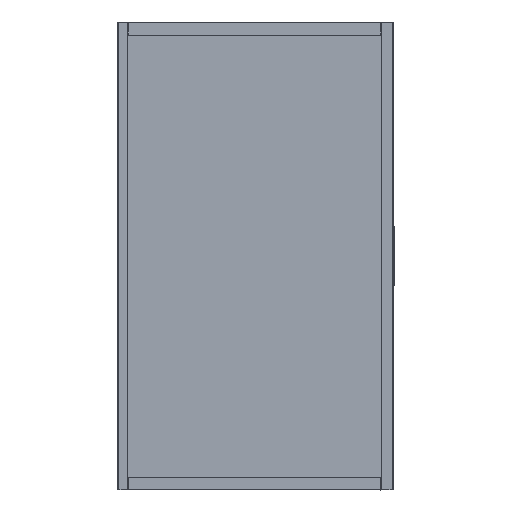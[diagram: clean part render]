
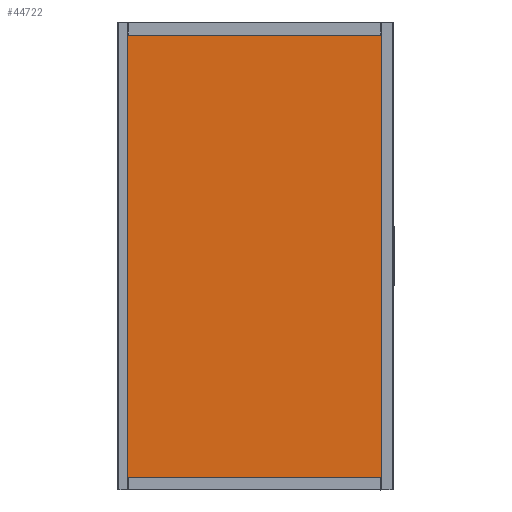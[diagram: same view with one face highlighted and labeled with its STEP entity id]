
A CAD part, front view. The second image highlights one B-rep face of the part: STEP entity #44722.
In plain terms, the highlighted planar face has unit normal (0, -1, 0).
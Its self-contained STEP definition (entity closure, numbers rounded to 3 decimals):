
#2455=LINE($,#76829,#6583);
#2662=LINE($,#77497,#6790);
#2694=LINE($,#77613,#6822);
#2733=LINE($,#77712,#6861);
#2735=LINE($,#77716,#6863);
#2736=LINE($,#77718,#6864);
#2778=LINE($,#77802,#6906);
#3082=LINE($,#78835,#7210);
#3110=LINE($,#78902,#7238);
#3157=LINE($,#79036,#7285);
#3160=LINE($,#79042,#7288);
#3164=LINE($,#79049,#7292);
#3176=LINE($,#79068,#7304);
#3177=LINE($,#79071,#7305);
#3180=LINE($,#79076,#7308);
#3181=LINE($,#79078,#7309);
#3182=LINE($,#79079,#7310);
#3183=LINE($,#79080,#7311);
#3184=LINE($,#79081,#7312);
#3185=LINE($,#79082,#7313);
#3186=LINE($,#79083,#7314);
#6583=VECTOR($,#54564,1908.);
#6790=VECTOR($,#55041,1084.);
#6822=VECTOR($,#55111,1084.);
#6861=VECTOR($,#55200,1084.);
#6863=VECTOR($,#55206,0.446);
#6864=VECTOR($,#55207,7.);
#6906=VECTOR($,#55279,1907.);
#7210=VECTOR($,#56183,1084.);
#7238=VECTOR($,#56237,1084.);
#7285=VECTOR($,#56346,1084.);
#7288=VECTOR($,#56351,7.85);
#7292=VECTOR($,#56357,8.15);
#7304=VECTOR($,#56373,8.15);
#7305=VECTOR($,#56376,1.);
#7308=VECTOR($,#56381,7.85);
#7309=VECTOR($,#56384,0.446);
#7310=VECTOR($,#56385,0.446);
#7311=VECTOR($,#56386,0.446);
#7312=VECTOR($,#56387,7.);
#7313=VECTOR($,#56388,7.);
#7314=VECTOR($,#56389,7.);
#9779=PLANE($,#47949);
#11214=FACE_BOUND($,#14937,.T.);
#11215=FACE_BOUND($,#14938,.T.);
#11216=FACE_BOUND($,#14939,.T.);
#14937=EDGE_LOOP($,(#34799,#34800,#34801,#34802));
#14938=EDGE_LOOP($,(#34803,#34804,#34805,#34806));
#14939=EDGE_LOOP($,(#34807,#34808,#34809,#34810,#34811,#34812,#34813,#34814,
#34815,#34816,#34817,#34818,#34819));
#19785=VERTEX_POINT($,#76827);
#19786=VERTEX_POINT($,#76828);
#19995=VERTEX_POINT($,#77495);
#19996=VERTEX_POINT($,#77496);
#20030=VERTEX_POINT($,#77611);
#20031=VERTEX_POINT($,#77612);
#20065=VERTEX_POINT($,#77709);
#20066=VERTEX_POINT($,#77711);
#20067=VERTEX_POINT($,#77717);
#20093=VERTEX_POINT($,#77800);
#20094=VERTEX_POINT($,#77801);
#20384=VERTEX_POINT($,#78833);
#20385=VERTEX_POINT($,#78834);
#20410=VERTEX_POINT($,#78900);
#20411=VERTEX_POINT($,#78901);
#20454=VERTEX_POINT($,#79033);
#20455=VERTEX_POINT($,#79035);
#20456=VERTEX_POINT($,#79039);
#20459=VERTEX_POINT($,#79046);
#20465=VERTEX_POINT($,#79070);
#20466=VERTEX_POINT($,#79074);
#24684=EDGE_CURVE($,#19785,#19786,#2455,.T.);
#24963=EDGE_CURVE($,#19995,#19996,#2662,.T.);
#25006=EDGE_CURVE($,#20030,#20031,#2694,.T.);
#25058=EDGE_CURVE($,#20065,#20066,#2733,.T.);
#25061=EDGE_CURVE($,#20031,#19995,#2735,.T.);
#25062=EDGE_CURVE($,#20066,#20067,#2736,.T.);
#25106=EDGE_CURVE($,#20093,#20094,#2778,.T.);
#25568=EDGE_CURVE($,#20384,#20385,#3082,.T.);
#25600=EDGE_CURVE($,#20410,#20411,#3110,.T.);
#25667=EDGE_CURVE($,#20454,#20455,#3157,.T.);
#25670=EDGE_CURVE($,#20094,#20456,#3160,.T.);
#25674=EDGE_CURVE($,#20459,#19785,#3164,.T.);
#25686=EDGE_CURVE($,#19786,#20067,#3176,.T.);
#25687=EDGE_CURVE($,#20465,#20093,#3177,.T.);
#25690=EDGE_CURVE($,#20466,#20465,#3180,.T.);
#25691=EDGE_CURVE($,#19996,#20030,#3181,.T.);
#25692=EDGE_CURVE($,#20385,#20410,#3182,.T.);
#25693=EDGE_CURVE($,#20411,#20384,#3183,.T.);
#25694=EDGE_CURVE($,#20459,#20454,#3184,.T.);
#25695=EDGE_CURVE($,#20466,#20065,#3185,.T.);
#25696=EDGE_CURVE($,#20455,#20456,#3186,.T.);
#34799=ORIENTED_EDGE($,*,*,#24963,.T.);
#34800=ORIENTED_EDGE($,*,*,#25691,.T.);
#34801=ORIENTED_EDGE($,*,*,#25006,.T.);
#34802=ORIENTED_EDGE($,*,*,#25061,.T.);
#34803=ORIENTED_EDGE($,*,*,#25568,.T.);
#34804=ORIENTED_EDGE($,*,*,#25692,.T.);
#34805=ORIENTED_EDGE($,*,*,#25600,.T.);
#34806=ORIENTED_EDGE($,*,*,#25693,.T.);
#34807=ORIENTED_EDGE($,*,*,#25694,.F.);
#34808=ORIENTED_EDGE($,*,*,#25674,.T.);
#34809=ORIENTED_EDGE($,*,*,#24684,.T.);
#34810=ORIENTED_EDGE($,*,*,#25686,.T.);
#34811=ORIENTED_EDGE($,*,*,#25062,.F.);
#34812=ORIENTED_EDGE($,*,*,#25058,.F.);
#34813=ORIENTED_EDGE($,*,*,#25695,.F.);
#34814=ORIENTED_EDGE($,*,*,#25690,.T.);
#34815=ORIENTED_EDGE($,*,*,#25687,.T.);
#34816=ORIENTED_EDGE($,*,*,#25106,.T.);
#34817=ORIENTED_EDGE($,*,*,#25670,.T.);
#34818=ORIENTED_EDGE($,*,*,#25696,.F.);
#34819=ORIENTED_EDGE($,*,*,#25667,.F.);
#44722=ADVANCED_FACE($,(#11214,#11215,#11216),#9779,.T.);
#47949=AXIS2_PLACEMENT_3D($,#79077,#56382,#56383);
#54564=DIRECTION($,(0.,0.,-1.));
#55041=DIRECTION($,(1.,0.,0.));
#55111=DIRECTION($,(-1.,0.,0.));
#55200=DIRECTION($,(-1.,0.,0.));
#55206=DIRECTION($,(0.,0.,1.));
#55207=DIRECTION($,(0.,0.,-1.));
#55279=DIRECTION($,(0.,0.,1.));
#56183=DIRECTION($,(-1.,0.,0.));
#56237=DIRECTION($,(1.,0.,0.));
#56346=DIRECTION($,(1.,0.,0.));
#56351=DIRECTION($,(-1.,0.,0.));
#56357=DIRECTION($,(-1.,0.,0.));
#56373=DIRECTION($,(1.,0.,0.));
#56376=DIRECTION($,(0.,0.,1.));
#56381=DIRECTION($,(1.,0.,0.));
#56382=DIRECTION('center_axis',(0.,-1.,0.));
#56383=DIRECTION('ref_axis',(1.,0.,0.));
#56384=DIRECTION($,(0.,0.,-1.));
#56385=DIRECTION($,(0.,0.,1.));
#56386=DIRECTION($,(0.,0.,-1.));
#56387=DIRECTION($,(0.,0.,-1.));
#56388=DIRECTION($,(0.,0.,1.));
#56389=DIRECTION($,(0.,0.,1.));
#76827=CARTESIAN_POINT('',(-302.375,-898.159,2908.14));
#76828=CARTESIAN_POINT('',(-302.375,-898.159,1000.14));
#76829=CARTESIAN_POINT($,(-302.375,-898.159,2908.14));
#77495=CARTESIAN_POINT('',(-294.225,-898.159,1008.713));
#77496=CARTESIAN_POINT('',(789.775,-898.159,1008.713));
#77497=CARTESIAN_POINT($,(-294.225,-898.159,1008.713));
#77611=CARTESIAN_POINT('',(789.775,-898.159,1008.266));
#77612=CARTESIAN_POINT('',(-294.225,-898.159,1008.266));
#77613=CARTESIAN_POINT($,(-294.225,-898.159,1008.266));
#77709=CARTESIAN_POINT('',(789.775,-898.159,1007.14));
#77711=CARTESIAN_POINT('',(-294.225,-898.159,1007.14));
#77712=CARTESIAN_POINT($,(381.2,-898.159,1007.14));
#77716=CARTESIAN_POINT($,(-294.225,-898.159,1717.023));
#77717=CARTESIAN_POINT('',(-294.225,-898.159,1000.14));
#77718=CARTESIAN_POINT($,(-294.225,-898.159,1706.465));
#77800=CARTESIAN_POINT('',(797.625,-898.159,1001.14));
#77801=CARTESIAN_POINT('',(797.625,-898.159,2908.14));
#77802=CARTESIAN_POINT($,(797.625,-898.159,1000.14));
#78833=CARTESIAN_POINT('',(789.775,-898.159,2899.567));
#78834=CARTESIAN_POINT('',(-294.225,-898.159,2899.567));
#78835=CARTESIAN_POINT($,(789.775,-898.159,2899.567));
#78900=CARTESIAN_POINT('',(-294.225,-898.159,2900.013));
#78901=CARTESIAN_POINT('',(789.775,-898.159,2900.013));
#78902=CARTESIAN_POINT($,(789.775,-898.159,2900.013));
#79033=CARTESIAN_POINT('',(-294.225,-898.159,2901.14));
#79035=CARTESIAN_POINT('',(789.775,-898.159,2901.14));
#79036=CARTESIAN_POINT($,(-160.8,-898.159,2901.14));
#79039=CARTESIAN_POINT('',(789.775,-898.159,2908.14));
#79042=CARTESIAN_POINT($,(797.625,-898.159,2908.14));
#79046=CARTESIAN_POINT('',(-294.225,-898.159,2908.14));
#79049=CARTESIAN_POINT($,(797.625,-898.159,2908.14));
#79068=CARTESIAN_POINT($,(-302.375,-898.159,1000.14));
#79070=CARTESIAN_POINT('',(797.625,-898.159,1000.14));
#79071=CARTESIAN_POINT($,(797.625,-898.159,1000.14));
#79074=CARTESIAN_POINT('',(789.775,-898.159,1000.14));
#79076=CARTESIAN_POINT($,(-302.375,-898.159,1000.14));
#79077=CARTESIAN_POINT('Origin',(-27.375,-898.159,2431.14));
#79078=CARTESIAN_POINT($,(789.775,-898.159,1717.023));
#79079=CARTESIAN_POINT($,(-294.225,-898.159,2668.256));
#79080=CARTESIAN_POINT($,(789.775,-898.159,2668.256));
#79081=CARTESIAN_POINT($,(-294.225,-898.159,2678.815));
#79082=CARTESIAN_POINT($,(789.775,-898.159,1706.465));
#79083=CARTESIAN_POINT($,(789.775,-898.159,2678.815));
